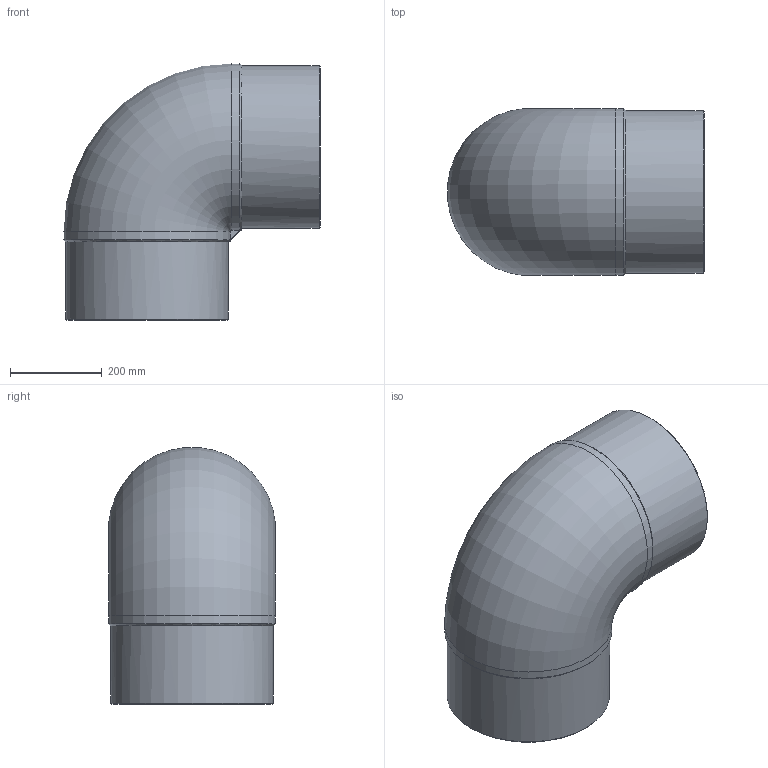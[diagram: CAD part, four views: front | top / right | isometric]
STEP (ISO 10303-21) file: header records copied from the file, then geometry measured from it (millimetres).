
FILE_DESCRIPTION(/* description */ ('Unknown'),/* implementation_level */ '2;1');
FILE_NAME(/* name */ 'G9P355G',/* time_stamp */ '2021-11-29T10:28:07+01:00',/* author */ ('Unknown'),/* organization */ ('Unknown'),/* preprocessor_version */ 'ST-DEVELOPER v16.7',/* originating_system */ 'Solid Edge',/* authorisation */ 'Unknown');
FILE_SCHEMA (('AUTOMOTIVE_DESIGN {1 0 10303 214 3 1 1}'));
Length unit declared in the file: millimetre
Products named in the file (1): G9P355G
Bounding box: 559.8 x 363.69 x 559.8 mm (x, y, z)
Volume: 28864526.8 mm3; surface area: 1433639.8 mm2
Topology: 1 solids, 1 shells, 25 faces, 65 edges, 42 vertices
Faces by surface type: cylinder 8, bspline 6, plane 5, cone 4, torus 2
Full cylindrical faces by diameter (mm): 275.6 x2, 355 x2
Entity records: 832 total; most frequent: CARTESIAN_POINT 295, ORIENTED_EDGE 106, DIRECTION 90, EDGE_CURVE 53, AXIS2_PLACEMENT_3D 41, VERTEX_POINT 38, EDGE_LOOP 35, FACE_BOUND 35
